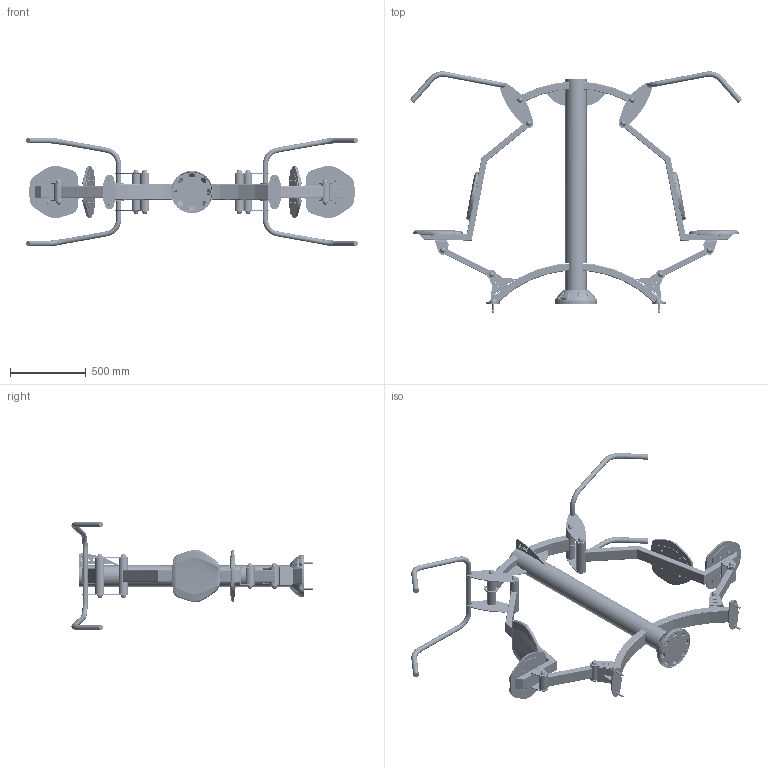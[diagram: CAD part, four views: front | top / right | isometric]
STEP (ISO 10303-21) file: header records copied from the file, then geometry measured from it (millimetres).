
FILE_DESCRIPTION (( 'STEP AP203' ), '1' );
FILE_NAME ('M0302A-F - PORTEUR DOUBLE ASS V3.1.STEP', '2020-03-27T13:33:00', ( '' ), ( '' ), 'SwSTEP 2.0', 'SolidWorks 2019', '' );
FILE_SCHEMA (( 'CONFIG_CONTROL_DESIGN' ));
Length unit declared in the file: millimetre
Products named in the file (73): BIELLEPOR-M0312 - BIELLE PORTEUR V4.0_Avec cƒle 6 mm; ARTICULATION D60 CHAPE 235 V1.0; ARTICULATION D60 CHAPE 110 V4.0_Avec rondelle SR0431; SUPPORT BUTEE CHAPE 110 ASS V4.3_Sans but‚es progressives; PU-TOLANTCO61 - Tole anti coincement  pour bague D.61 V1.0; TOLPL-230-90.A - Platine 230x90 V1.0; SSD0720 - Dossier-siège V1.2; SSD0720 - SIEGE DOSSIER ASS V1.2_‚p.5 - Fixation dossier; SC0306C - Petit capuchon en nylon 36 mm; SSD0716 - Demi support siège béton pour tube 80x40 V1.1; PU-TROCB1468 - Colonne base haute D.139,7x3 Ht1468 V2.1; SC0306B - Base pour capuchon en nylon 36mm; SSD0718 - Demi plaque dossier béton pour tube 80x40 V1.1; SA1409A - Axe Inox D.20mm L156,3mm V1.0; SP0607 - Poignee plastique D.33,7 L=300_Porteur; SR0416 - Rondelle plate petite M10 A2 ext 22mm; TOLGOUR775-17 - Gousset pour tube R775 et boite à butée 17° V1.0; SSD0720 - SIEGE DOSSIER ASS V1.2_‚p.5 - Fixation siŠge; SBA1608 - Bague 6204 L232 rainuré pour 100x50 V1.0; SF1101 - Ecrou frein M10 A2; SC0304 - Demi cache platine D140 V4.0; SC0304 - CACHE PLATINE ASS V4.0; SBB2105.A - Support butee chape 110 V1.1; SB0112 - Vis Torx teton central M8x20_M8x20; SCH1808 - Chapeau 76x51 pour tube 80x40 coupe à 45°; SBU1007 - Butee elastomere 60x38x20 V1.1_60x38x20; SR0431 - Rondelle plastique pour roulement 6204 ép 5,3 V1.0; SFC0900 - Fiche de consigne en vinyl 90x220mm_Quadriceps traction bras; TOLCHPORT.C - Tole chape porteur V4.2; SR0415 - Rondelle Grower M8 A2; SRR0816 - Roulement  6204 47-20-14; M0302A-B - CHASSIS PORTEUR DOUBLE ASS V1.0; PU-TOLPLAT - Platine base V1.0; SBB2104 - Paroie support butee V4.1; SC0309 - Petit capuchon en nylon 44 mm; PU-TDRFIT138 - Tole renfort L138 H106 V1.0; PLATINE BASE ASS V2.0; SBB2130 - BOITE A BUTEE 17° OUVERTE ASS V1.0_Chape 110; SF1100 - Ecrou frein M8 A2; TOLLOCOL - Tole logo colonne V1.0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
Assembly tree (277 placements, depth 4):
  M0302A-F - PORTEUR DOUBLE ASS V3.1
    M0302A-B - CHASSIS PORTEUR DOUBLE ASS V1.0
      PLATINE BASE ASS V2.0
        PU-TOLPLAT - Platine base V1.0
        PU-TOLGOPL - Gousset platine V2.0  x4
      PU-TROCB1468 - Colonne base haute D.139,7x3 Ht1468 V2.1
      SCH1806.A - Chapeau D135 V1.2
      TRECT-R750 - Tube rectangulaire cintré R750 100x50x3 L775 V1.0
      SBB2130 - BOITE A BUTEE 17° OUVERTE ASS V1.0_Chape 110
        SBB2114.A - Flasque boite a butee 17° V1.1  x2
        SBB2113.A - Plaque latérale longue pour chape 110 ep.6 boite a butee V1.1__  x2
      TRECT-R750 - Tube rectangulaire cintré R750 100x50x3 L1310 V1.0
      SBA1608 - Bague 6204 L232 rainuré pour 100x50 V1.0  x2
      SBB2130 - BOITE A BUTEE 17° OUVERTE ASS V1.0_Chape 110
        SBB2114.A - Flasque boite a butee 17° V1.1  x2
        SBB2113.A - Plaque latérale longue pour chape 110 ep.6 boite a butee V1.1__  x2
      PU-TDRFIT138 - Tole renfort L138 H106 V1.0  x2
      TOLGOUR775-17 - Gousset pour tube R775 et boite à butée 17° V1.0  x4
      PU-TOLANTCO61 - Tole anti coincement  pour bague D.61 V1.0  x2
      TOLPL-230-90.A - Platine 230x90 V1.0  x2
      TOLLOCOL - Tole logo colonne V1.0
    SC0304 - CACHE PLATINE ASS V4.0
      SC0304 - Demi cache platine D140 V4.0
      SB0112 - Vis Torx teton central M8x20_M8x20  x2
    ARTICULATION D60 CHAPE 235 V1.0
      SA1424 - Axe Inox D.20mm L281,3mm V1.0
      SC0306B - Base pour capuchon en nylon 36mm  x2
      SC0306C - Petit capuchon en nylon 36 mm  x2
      SF1101 - Ecrou frein M10 A2  x2
      SR0416 - Rondelle plate petite M10 A2 ext 22mm  x2
      SRR0816 - Roulement  6204 47-20-14  x2
      SR0431 - Rondelle plastique pour roulement 6204 ép 5,3 V1.0  x2
    ARTICULATION D60 CHAPE 110 V4.0_Avec rondelle SR0431
      SA1409A - Axe Inox D.20mm L156,3mm V1.0
      SC0306B - Base pour capuchon en nylon 36mm  x2
      SC0306C - Petit capuchon en nylon 36 mm  x2
      SF1101 - Ecrou frein M10 A2  x2
      SR0416 - Rondelle plate petite M10 A2 ext 22mm  x2
      SRR0816 - Roulement  6204 47-20-14  x2
      SR0431 - Rondelle plastique pour roulement 6204 ép 5,3 V1.0  x2
    BIELLEPOR-M0312 - BIELLE PORTEUR V4.0_Avec cƒle 6 mm
      SBA1305 - Tube de liaison 80x40 L310 V1.0
      SUPPORT BUTEE CHAPE 110 ASS V4.3_Sans but‚es progressives
        SBB2105.A - Support butee chape 110 V1.1
        SBB2104 - Paroie support butee V4.1  x2
        SBU1007 - Butee elastomere 60x38x20 V1.1_60x38x20  x2
        SF1100 - Ecrou frein M8 A2
        SR0404 - Rondelle plate Moyenne M8 A2  x2
        SB0122 - Vis CHC M8x35 inox A2
      SBA1600 - Bague 6204 L107 V1.0  x2
    SSD0720 - SIEGE DOSSIER ASS V1.2_‚p.5 - Fixation siŠge
      SSD0720 - Dossier-siège V1.2
      SR0404 - Rondelle plate Moyenne M8 A2  x4
      SB0112 - Vis Torx teton central M8x20_M8x20  x4
      SR0415 - Rondelle Grower M8 A2  x4
    SSD0720 - SIEGE DOSSIER ASS V1.2_‚p.5 - Fixation dossier
      SSD0720 - Dossier-siège V1.2
      SR0404 - Rondelle plate Moyenne M8 A2  x4
      SB0112 - Vis Torx teton central M8x20_M8x20  x4
      SR0415 - Rondelle Grower M8 A2  x4
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Bounding box: 2192.31 x 1593.76 x 716.69 mm (x, y, z)
Volume: 22827702.8 mm3; surface area: 8036409 mm2
Topology: 324 solids, 325 shells, 6950 faces, 16399 edges, 10390 vertices
Faces by surface type: cylinder 2425, plane 1733, cone 1108, torus 752, bspline 564, sphere 368
Entity records: 162229 total; most frequent: CARTESIAN_POINT 110296, ORIENTED_EDGE 8282, DIRECTION 7756, EDGE_CURVE 4143, AXIS2_PLACEMENT_3D 3109, VERTEX_POINT 2647, EDGE_LOOP 1885, FACE_OUTER_BOUND 1663
